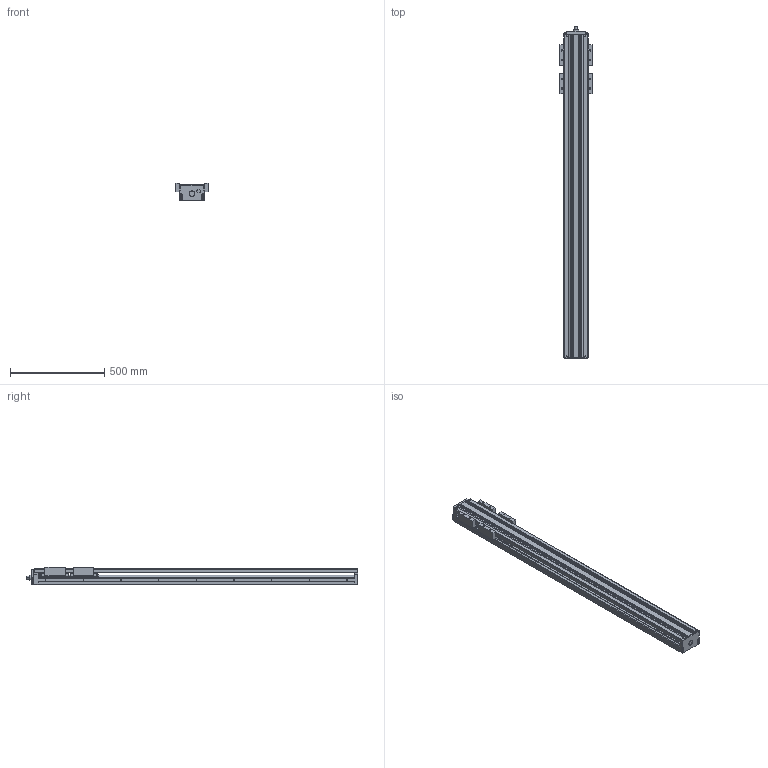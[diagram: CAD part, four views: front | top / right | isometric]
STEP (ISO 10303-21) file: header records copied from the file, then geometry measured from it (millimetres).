
FILE_DESCRIPTION(('no description'),'unknown implementation level');
FILE_NAME('KK13025P1680A2H0C00_FILE_66.stp',' ',('HIWIN GmbH'),('CADClick - KiM GmbH - www.kimweb.de'),'unknown preprocess','ACIS','unknown authorization');
FILE_SCHEMA(('automotive_design'));
Length unit declared in the file: millimetre
Products named in the file (3): KK13025P1680A2H0C00_FILE_1; KK130_FILE; KK13025P1680A2H0C00_FILE
Bounding box: 170 x 1762 x 94 mm (x, y, z)
Volume: 8607173.6 mm3; surface area: 1682995.7 mm2
Topology: 3 solids, 23 shells, 1291 faces, 3242 edges, 2094 vertices
Faces by surface type: plane 801, cylinder 430, torus 52, sphere 4, cone 4
Entity records: 75974 total; most frequent: DIRECTION 6898, CARTESIAN_POINT 6842, STYLED_ITEM 6626, PRESENTATION_STYLE_ASSIGNMENT 6626, COLOUR_RGB 6626, ORIENTED_EDGE 6476, EDGE_CURVE 3238, CURVE_STYLE 3238
